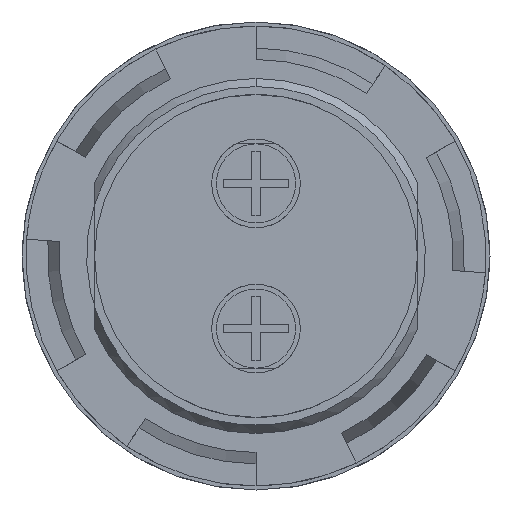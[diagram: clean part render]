
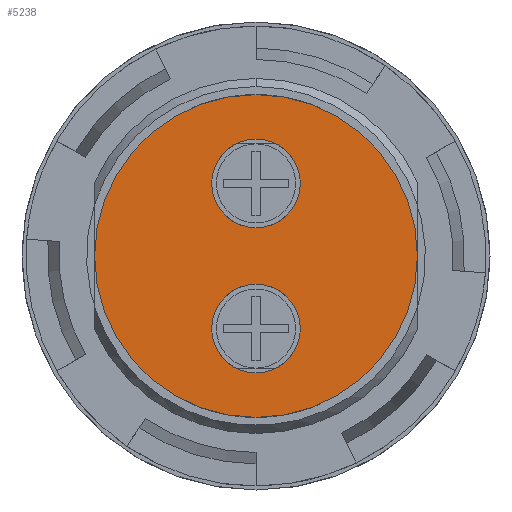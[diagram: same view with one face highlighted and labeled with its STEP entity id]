
A CAD part, front view. The second image highlights one B-rep face of the part: STEP entity #5238.
In plain terms, the highlighted planar face has unit normal (0, -1, 0).
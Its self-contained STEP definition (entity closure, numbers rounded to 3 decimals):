
#126 = EDGE_LOOP ( 'NONE', ( #8284, #5802 ) ) ;
#199 = CARTESIAN_POINT ( 'NONE',  ( 0., -55., -7.25 ) ) ;
#333 = CARTESIAN_POINT ( 'NONE',  ( 0., -55., 0. ) ) ;
#1172 = AXIS2_PLACEMENT_3D ( 'NONE', #18420, #7314, #20271 ) ;
#1430 = AXIS2_PLACEMENT_3D ( 'NONE', #333, #13360, #2232 ) ;
#2232 = DIRECTION ( 'NONE',  ( 0., 0., -1. ) ) ;
#2339 = AXIS2_PLACEMENT_3D ( 'NONE', #20489, #9394, #22355 ) ;
#2894 = CIRCLE ( 'NONE', #17910, 2.75 ) ;
#3330 = VERTEX_POINT ( 'NONE', #21349 ) ;
#4396 = CARTESIAN_POINT ( 'NONE',  ( 0., -55., 7.25 ) ) ;
#4468 = CARTESIAN_POINT ( 'NONE',  ( 0., -55., -4.5 ) ) ;
#4528 = AXIS2_PLACEMENT_3D ( 'NONE', #7021, #23727, #12637 ) ;
#5238 = ADVANCED_FACE ( 'NONE', ( #11082, #10505, #5569 ), #19981, .T. ) ;
#5569 = FACE_OUTER_BOUND ( 'NONE', #19882, .T. ) ;
#5802 = ORIENTED_EDGE ( 'NONE', *, *, #9485, .F. ) ;
#5825 = DIRECTION ( 'NONE',  ( 0., -1., 0. ) ) ;
#6355 = DIRECTION ( 'NONE',  ( 0., 0., -1. ) ) ;
#6730 = VERTEX_POINT ( 'NONE', #12533 ) ;
#7021 = CARTESIAN_POINT ( 'NONE',  ( 0., -55., 0. ) ) ;
#7314 = DIRECTION ( 'NONE',  ( 0., -1., 0. ) ) ;
#7799 = EDGE_CURVE ( 'NONE', #19277, #15183, #22577, .T. ) ;
#8182 = ORIENTED_EDGE ( 'NONE', *, *, #14507, .F. ) ;
#8284 = ORIENTED_EDGE ( 'NONE', *, *, #13548, .F. ) ;
#8447 = CIRCLE ( 'NONE', #2339, 2.75 ) ;
#8639 = ORIENTED_EDGE ( 'NONE', *, *, #14165, .F. ) ;
#9394 = DIRECTION ( 'NONE',  ( 0., -1., 0. ) ) ;
#9485 = EDGE_CURVE ( 'NONE', #12789, #3330, #10070, .T. ) ;
#10070 = CIRCLE ( 'NONE', #22453, 2.75 ) ;
#10391 = DIRECTION ( 'NONE',  ( 0., -1., 0. ) ) ;
#10505 = FACE_BOUND ( 'NONE', #126, .T. ) ;
#10666 = CARTESIAN_POINT ( 'NONE',  ( 0., -55., 10. ) ) ;
#11082 = FACE_BOUND ( 'NONE', #12281, .T. ) ;
#12281 = EDGE_LOOP ( 'NONE', ( #8639, #8182 ) ) ;
#12533 = CARTESIAN_POINT ( 'NONE',  ( 0., -55., -1.75 ) ) ;
#12613 = AXIS2_PLACEMENT_3D ( 'NONE', #4468, #17460, #6355 ) ;
#12637 = DIRECTION ( 'NONE',  ( 0., 0., -1. ) ) ;
#12656 = CARTESIAN_POINT ( 'NONE',  ( 0., -55., -10. ) ) ;
#12731 = VERTEX_POINT ( 'NONE', #199 ) ;
#12789 = VERTEX_POINT ( 'NONE', #4396 ) ;
#13360 = DIRECTION ( 'NONE',  ( 0., -1., 0. ) ) ;
#13381 = CIRCLE ( 'NONE', #12613, 2.75 ) ;
#13548 = EDGE_CURVE ( 'NONE', #3330, #12789, #8447, .T. ) ;
#13974 = EDGE_CURVE ( 'NONE', #15183, #19277, #15120, .T. ) ;
#14165 = EDGE_CURVE ( 'NONE', #12731, #6730, #13381, .T. ) ;
#14507 = EDGE_CURVE ( 'NONE', #6730, #12731, #2894, .T. ) ;
#15120 = CIRCLE ( 'NONE', #1430, 10. ) ;
#15183 = VERTEX_POINT ( 'NONE', #10666 ) ;
#16939 = CARTESIAN_POINT ( 'NONE',  ( 0., -55., 4.5 ) ) ;
#17460 = DIRECTION ( 'NONE',  ( 0., -1., 0. ) ) ;
#17910 = AXIS2_PLACEMENT_3D ( 'NONE', #21485, #10391, #23361 ) ;
#18420 = CARTESIAN_POINT ( 'NONE',  ( 0., -55., 0. ) ) ;
#18808 = DIRECTION ( 'NONE',  ( 0., 0., -1. ) ) ;
#19277 = VERTEX_POINT ( 'NONE', #12656 ) ;
#19882 = EDGE_LOOP ( 'NONE', ( #22466, #23055 ) ) ;
#19981 = PLANE ( 'NONE',  #4528 ) ;
#20271 = DIRECTION ( 'NONE',  ( 0., 0., -1. ) ) ;
#20489 = CARTESIAN_POINT ( 'NONE',  ( 0., -55., 4.5 ) ) ;
#21349 = CARTESIAN_POINT ( 'NONE',  ( 0., -55., 1.75 ) ) ;
#21485 = CARTESIAN_POINT ( 'NONE',  ( 0., -55., -4.5 ) ) ;
#22355 = DIRECTION ( 'NONE',  ( 0., 0., -1. ) ) ;
#22453 = AXIS2_PLACEMENT_3D ( 'NONE', #16939, #5825, #18808 ) ;
#22466 = ORIENTED_EDGE ( 'NONE', *, *, #13974, .T. ) ;
#22577 = CIRCLE ( 'NONE', #1172, 10. ) ;
#23055 = ORIENTED_EDGE ( 'NONE', *, *, #7799, .T. ) ;
#23361 = DIRECTION ( 'NONE',  ( 0., 0., -1. ) ) ;
#23727 = DIRECTION ( 'NONE',  ( 0., -1., 0. ) ) ;
